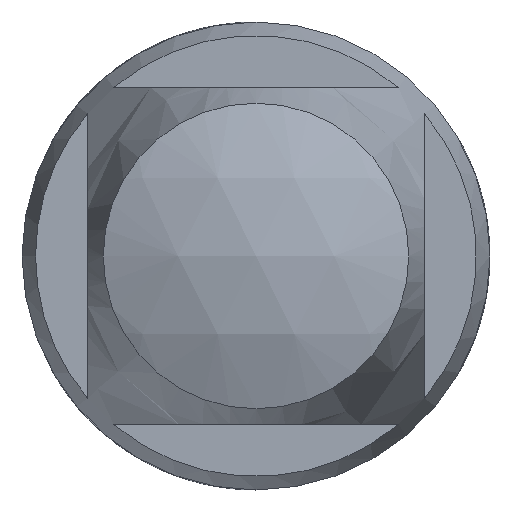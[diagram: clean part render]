
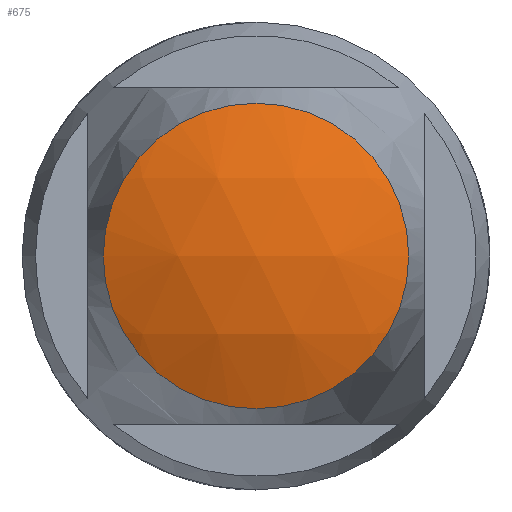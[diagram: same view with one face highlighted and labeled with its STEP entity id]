
A CAD part, front view. The second image highlights one B-rep face of the part: STEP entity #675.
In plain terms, the highlighted spherical face has radius 10.799 mm.
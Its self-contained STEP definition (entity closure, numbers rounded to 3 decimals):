
#19=SPHERICAL_SURFACE('',#742,10.799);
#242=FACE_OUTER_BOUND('',#299,.T.);
#299=EDGE_LOOP('',(#607));
#328=CIRCLE('',#743,4.538);
#387=VERTEX_POINT('',#1324);
#468=EDGE_CURVE('',#387,#387,#328,.T.);
#607=ORIENTED_EDGE('',*,*,#468,.F.);
#675=ADVANCED_FACE('',(#242),#19,.T.);
#742=AXIS2_PLACEMENT_3D('',#1323,#916,#917);
#743=AXIS2_PLACEMENT_3D('',#1325,#918,#919);
#916=DIRECTION('center_axis',(0.,0.,1.));
#917=DIRECTION('ref_axis',(1.,0.,0.));
#918=DIRECTION('center_axis',(0.,1.,0.));
#919=DIRECTION('ref_axis',(-1.,0.,0.));
#1323=CARTESIAN_POINT('Origin',(0.,-32.201,
0.));
#1324=CARTESIAN_POINT('',(-4.538,-42.,0.));
#1325=CARTESIAN_POINT('Origin',(0.,-42.,0.));
